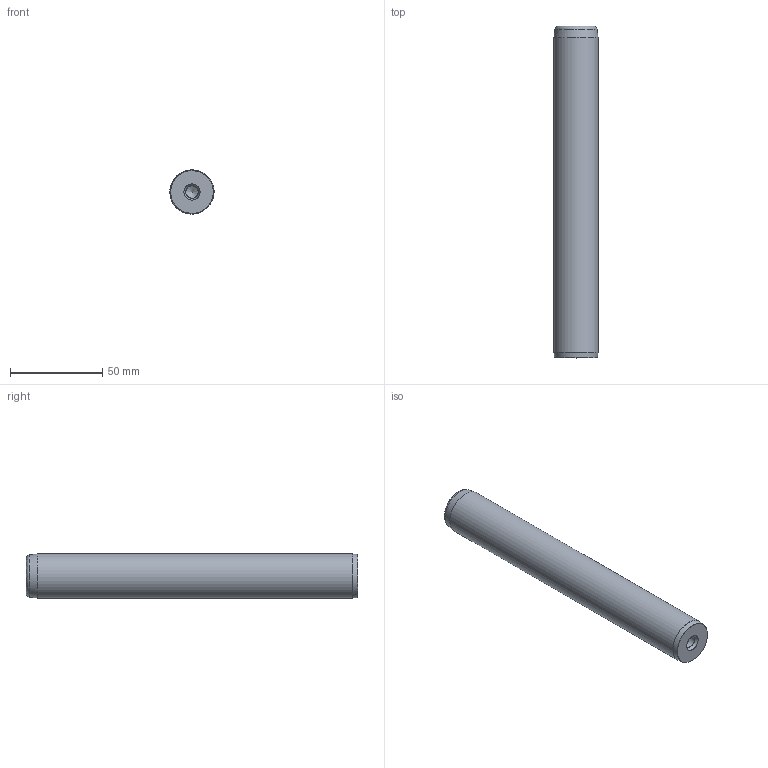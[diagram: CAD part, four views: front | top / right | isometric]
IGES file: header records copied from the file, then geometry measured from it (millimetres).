
Start section: Missler Software BP 521, 31674 Labege Cedex, France Tel   : +33 (0)5 61 00 03 00 Fax   : +33 (0)5 61 00 03 03 Email : sup.topsolid@topsolid.com
Global section: file name: D:\Cuma\D14\D14_24180.igs; native system: TopSolid v605250 Missler Software; preprocessor: IGES preprocessor v100000; date: 030120.192229; units: millimetre
Bounding box: 24 x 180 x 24 mm (x, y, z)
Surface area: 15453.7 mm2 (no closed solid volume)
Topology: 0 solids, 0 shells, 14 faces, 145 edges, 136 vertices
Faces by surface type: bspline 14
